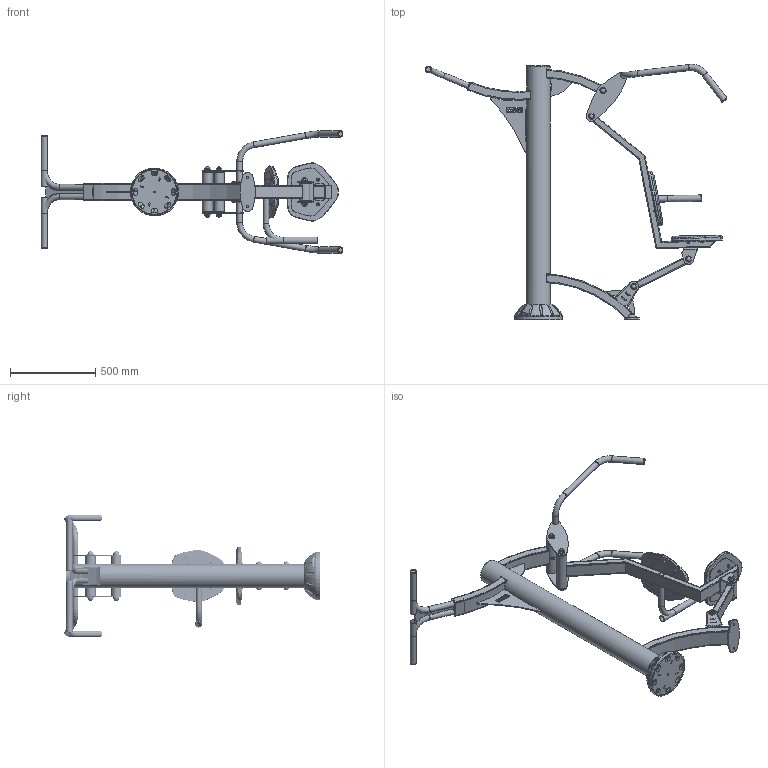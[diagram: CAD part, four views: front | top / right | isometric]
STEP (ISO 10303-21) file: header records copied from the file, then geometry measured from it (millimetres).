
FILE_DESCRIPTION (( 'STEP AP214' ), '1' );
FILE_NAME ('PMR0708 - PORTEUR-TRACTION BRAS PMR V1.0.STEP', '2017-10-10T20:13:11', ( '' ), ( '' ), 'SwSTEP 2.0', 'SolidWorks 2016', '' );
FILE_SCHEMA (( 'AUTOMOTIVE_DESIGN' ));
Length unit declared in the file: millimetre
Products named in the file (66): SF1101 - Ecrou frein M10 A2; SCH1808 - Chapeau 76x51 pour tube 80x40 coupe à 45°; SC0304 - Demi cache platine D140 V4.0; BATI-PMR0708 - BATI  PORTEUR-TRACTION BRAS PMR V1.0; SCHP2001.C - Chape pliee 124 廧 6 V2.2; SR0416 - Rondelle plate petite M10 A2 ext 22mm; PU-TOLPLAT - Platine base V1.0; SSD0718 - Demi plaque dossier béton pour tube 80x40 V1.0; PU-TDRFIT138 - Tole renfort L138 H106 V1.0; SCH1806.A - Chapeau D135 V1.0; SBB2130 - BOITE A BUTEE 17° OUVERTE ASS V1.0_Chape 110; PU-TDRPOI.A - Tole renfort poignées traction bras V2.0; SSD0712 - SIEGE BETON ASS V1.2_Ｑ.5; PU-TROCP - Tube cintré poignée d33,7 RM100 90° V1.0; PU-TOLANTCO61 - Tole anti coincement  pour bague D.61 V1.0; PMR0708 - PORTEUR-TRACTION BRAS PMR V1.0; SR0404 - Rondelle plate Moyenne M8 A2; PU-TDRFIT225 - Tole renfort tube rectangulaire cintré R750 V1.0; SSD0713 - DOSSIER BETON ASS V1.2_Ｑ.3; TROCB1468PTBPMR - Colonne base haute D.139,7x3 Ht1468 Porteur Traction bras PMR V1.0; SBB2114.A - Flasque boite a butee 17° V1.1; PU-TRETRAV388 - Tube rectangulaire cintré R750 100x50x3 L388 V1.0_RAL7012; ARTICULATION D60 CHAPE 110 V4.0_Avec rondelle SR0431; BIELLEPOR-M0312 - BIELLE PORTEUR V4.0_Avec cƒle 6 mm; SA1409A - Axe Inox D.20mm L156,3mm V1.0; SBB2105.A - Support butee chape 110 V1.1; SF1100 - Ecrou frein M8 A2; SR0415 - Rondelle Grower M8 A2; SC0304 - CACHE PLATINE ASS V4.0; SC0306C - Petit capuchon en nylon 36 mm; SCH1804 - Chapeau 97x47 2 trous D34,7 V1.0; SC0306B - Base pour capuchon en nylon 36mm; TOLGOUR775-17 - Gousset pour tube R775 et boite à butée 17° V1.0; SSD0712 - Siège béton V1.5; SBA1608 - Bague 6204 L232 rainuré pour 100x50 V1.0; SC0309 - Petit capuchon en nylon 44 mm; TDRENT-M0307 - Entretoise placement tubes Traction Bras V1.0; SB0122 - Vis CHC M8x35 inox A2; TOLCHPORT.C - Tole chape porteur V4.2; PU-TRETRAV420 - Tube rectangulaire cintré R750 100x50x3 L420 V1.0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
Assembly tree (129 placements, depth 4):
  PMR0708 - PORTEUR-TRACTION BRAS PMR V1.0
    BATI-PMR0708 - BATI  PORTEUR-TRACTION BRAS PMR V1.0
      TROCB1468PTBPMR - Colonne base haute D.139,7x3 Ht1468 Porteur Traction bras PMR V1.0
      PU-TRETRAV420 - Tube rectangulaire cintré R750 100x50x3 L420 V1.0
      SCH1806.A - Chapeau D135 V1.0
      ENSPOI-M0307 - POIGNEES TRACTION BRAS ASS V1.0
        PU-TROCP - Tube cintré poignée d33,7 RM100 90° V1.0  x2
        PU-TDRPOI.A - Tole renfort poignées traction bras V2.0
        SCH1804 - Chapeau 97x47 2 trous D34,7 V1.0
        TDRENT-M0307 - Entretoise placement tubes Traction Bras V1.0
      PU-TDRFIT225 - Tole renfort tube rectangulaire cintré R750 V1.0
      PU-TRETRAV388 - Tube rectangulaire cintré R750 100x50x3 L388 V1.0_RAL7012
      PU-TRETRAV655 - Tube rectangulaire cintré R750 100x50x3 L655 V1.0
      PU-TDRFIT138 - Tole renfort L138 H106 V1.0
      PLATINE BASE ASS V2.0_RAL7012
        PU-TOLPLAT - Platine base V1.0
        PU-TOLGOPL - Gousset platine V2.0  x4
      SBB2130 - BOITE A BUTEE 17° OUVERTE ASS V1.0_Chape 110
        SBB2114.A - Flasque boite a butee 17° V1.1  x2
        SBB2113.A - Plaque latérale longue pour chape 110 ep.6 boite a butee V1.1__  x2
      SBA1608 - Bague 6204 L232 rainuré pour 100x50 V1.0
      TOLGOUR775-17 - Gousset pour tube R775 et boite à butée 17° V1.0  x2
      PU-TOLANTCO61 - Tole anti coincement  pour bague D.61 V1.0
      TOLPL-230-90.A - Platine 230x90 V1.0
    SP0607 - Poignee plastique D.33,7 L=300  x3
    SC0304 - CACHE PLATINE ASS V4.0
      SC0304 - Demi cache platine D140 V4.0
      SB0112 - Vis Torx teton central M8x20_M8x20  x2
    ARTICULATION D60 CHAPE 235 V1.0  x2
      SA1424 - Axe Inox D.20mm L281,3mm V1.0
      SC0306B - Base pour capuchon en nylon 36mm
      SC0306C - Petit capuchon en nylon 36 mm
      SF1101 - Ecrou frein M10 A2
      SR0416 - Rondelle plate petite M10 A2 ext 22mm
      SRR0816 - Roulement  6204 47-20-14
      SR0431 - Rondelle plastique pour roulement 6204 ép 5,3 V1.0
    ARTICULATION D60 CHAPE 110 V4.0_Avec rondelle SR0431  x2
      SA1409A - Axe Inox D.20mm L156,3mm V1.0
      SC0306B - Base pour capuchon en nylon 36mm
      SC0306C - Petit capuchon en nylon 36 mm
      SF1101 - Ecrou frein M10 A2
      SR0416 - Rondelle plate petite M10 A2 ext 22mm
      SRR0816 - Roulement  6204 47-20-14
      SR0431 - Rondelle plastique pour roulement 6204 ép 5,3 V1.0
    BIELLEPOR-M0312 - BIELLE PORTEUR V4.0_Avec cƒle 6 mm
      SBA1305 - Tube de liaison 80x40 L310 V1.0
      SUPPORT BUTEE CHAPE 110 ASS V4.3_Sans but‚es progressives
        SBB2105.A - Support butee chape 110 V1.1
        SBB2104 - Paroie support butee V4.1  x2
        SBU1007 - Butee elastomere 60x38x20 V1.1_60x38x20  x2
        SF1100 - Ecrou frein M8 A2
        SR0404 - Rondelle plate Moyenne M8 A2  x2
        SB0122 - Vis CHC M8x35 inox A2
      SBA1600 - Bague 6204 L107 V1.0  x2
    SSD0712 - SIEGE BETON ASS V1.2_Ｑ.5
      SSD0712 - Siège béton V1.5
      SR0404 - Rondelle plate Moyenne M8 A2  x4
      SB0112 - Vis Torx teton central M8x20_M8x20  x4
      SR0415 - Rondelle Grower M8 A2  x4
    SSD0713 - DOSSIER BETON ASS V1.2_Ｑ.3
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Bounding box: 1767.58 x 1495.03 x 716.69 mm (x, y, z)
Volume: 14236482.7 mm3; surface area: 5617826.5 mm2
Topology: 173 solids, 173 shells, 3170 faces, 7326 edges, 4667 vertices
Faces by surface type: plane 1056, cylinder 836, bspline 598, cone 335, torus 240, sphere 105
Full cylindrical faces by diameter (mm): 1.8 x10, 6.647 x4, 6.8 x8, 6.95 x10, 8 x11, 8.376 x16, 8.4 x10, 8.5 x2, 8.75 x2, 9.3 x2, 10 x19, 10.5 x13, 10.8 x16, 12 x2, 13 x2, 14 x2, 17 x8, 18 x10, 20 x12, 20.3 x4, 20.5 x12, 22 x18, 25.5 x2, 26 x8, 26.1 x16, 27.052 x16, 27.8 x5, 27.9 x6, 29.5 x2, 30 x8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
Entity records: 179441 total; most frequent: CARTESIAN_POINT 137848, ORIENTED_EDGE 8248, DIRECTION 6696, EDGE_CURVE 4124, VERTEX_POINT 2741, AXIS2_PLACEMENT_3D 2582, EDGE_LOOP 2223, FACE_OUTER_BOUND 1940
